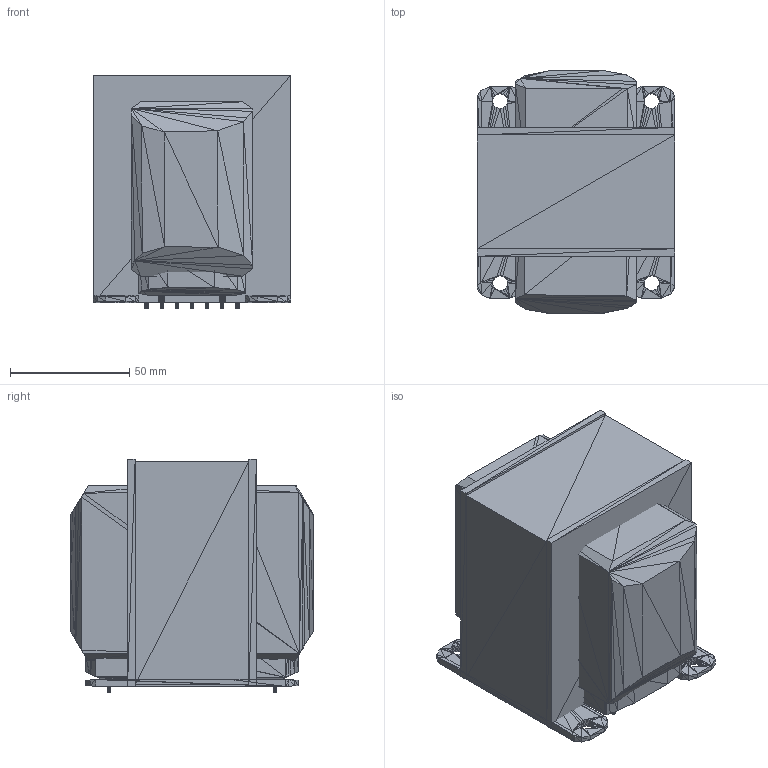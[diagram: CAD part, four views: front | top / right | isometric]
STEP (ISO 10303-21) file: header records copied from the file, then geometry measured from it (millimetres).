
FILE_DESCRIPTION(('HOOPS Exchange Step'),'2;1');
FILE_NAME('***.stp');
FILE_SCHEMA( ('AP242_MANAGED_MODEL_BASED_3D_ENGINEERING_MIM_LF {1 0 10303 442 1 1 4 }') );
Length unit declared in the file: inch
Products named in the file (27): XFRM600V3SCT_2; XFRM600V3SCT_3; XFRM600V3SCT_4; XFRM600V3SCT_5; XFRM600V3SCT_6; XFRM600V3SCT_7; XFRM600V3SCT_8; XFRM600V3SCT_9; XFRM600V3SCT_10; XFRM600V3SCT_11; XFRM600V3SCT_12; XFRM600V3SCT_13; XFRM600V3SCT_14; XFRM600V3SCT_15; XFRM600V3SCT_16; XFRM600V3SCT_17; XFRM600V3SCT_18; XFRM600V3SCT_19; XFRM600V3SCT_20; XFRM600V3SCT_21; XFRM600V3SCT_22; XFRM600V3SCT_23; XFRM600V3SCT_24; XFRM600V3SCT_25; XFRM600V3SCT_26; XFRM600V3SCT_27; XFRM600V3SCT
Assembly tree (26 placements, depth 2):
  XFRM600V3SCT
    XFRM600V3SCT_2
    XFRM600V3SCT_3
    XFRM600V3SCT_4
    XFRM600V3SCT_5
    XFRM600V3SCT_6
    XFRM600V3SCT_7
    XFRM600V3SCT_8
    XFRM600V3SCT_9
    XFRM600V3SCT_10
    XFRM600V3SCT_11
    XFRM600V3SCT_12
    XFRM600V3SCT_13
    XFRM600V3SCT_14
    XFRM600V3SCT_15
    XFRM600V3SCT_16
    XFRM600V3SCT_17
    XFRM600V3SCT_18
    XFRM600V3SCT_19
    XFRM600V3SCT_20
    XFRM600V3SCT_21
    XFRM600V3SCT_22
    XFRM600V3SCT_23
    XFRM600V3SCT_24
    XFRM600V3SCT_25
    XFRM600V3SCT_26
    XFRM600V3SCT_27
Bounding box: 82.55 x 101.61 x 97.8 mm (x, y, z)
Surface area: 116376.2 mm2
Topology: 26 solids, 26 shells, 2444 faces, 3666 edges, 1266 vertices
Faces by surface type: plane 2444
Entity records: 48908 total; most frequent: DIRECTION 8662, CARTESIAN_POINT 7430, ORIENTED_EDGE 7332, VECTOR 3666, LINE 3666, EDGE_CURVE 3666, AXIS2_PLACEMENT_3D 2498, PLANE 2444
